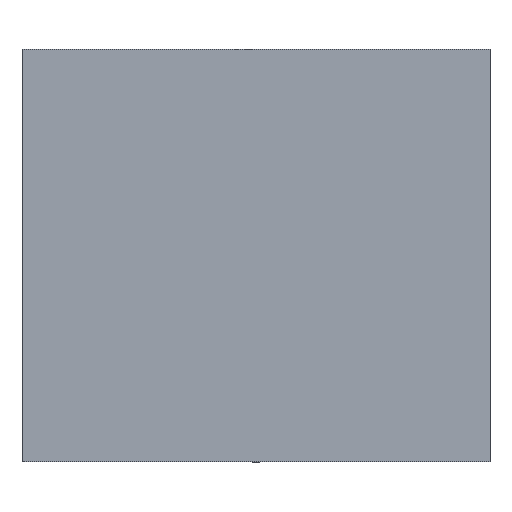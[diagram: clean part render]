
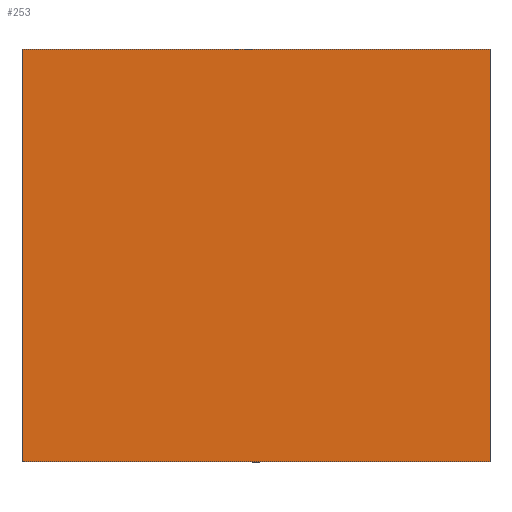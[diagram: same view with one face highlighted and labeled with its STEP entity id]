
A CAD part, left-side view. The second image highlights one B-rep face of the part: STEP entity #253.
In plain terms, the highlighted planar face has unit normal (-1, 0, 0).
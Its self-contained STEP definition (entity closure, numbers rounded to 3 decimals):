
#253 = ADVANCED_FACE( '', ( #568 ), #569, .T. );
#568 = FACE_OUTER_BOUND( '', #964, .T. );
#569 = PLANE( '', #965 );
#964 = EDGE_LOOP( '', ( #1494, #1495, #1496, #1497 ) );
#965 = AXIS2_PLACEMENT_3D( '', #1498, #1499, #1500 );
#1494 = ORIENTED_EDGE( '', *, *, #1995, .F. );
#1495 = ORIENTED_EDGE( '', *, *, #1996, .F. );
#1496 = ORIENTED_EDGE( '', *, *, #1997, .T. );
#1497 = ORIENTED_EDGE( '', *, *, #1992, .T. );
#1498 = CARTESIAN_POINT( '', ( -150., 150., -264.5 ) );
#1499 = DIRECTION( '', ( -1., 0., 0. ) );
#1500 = DIRECTION( '', ( 0., 1., 0. ) );
#1992 = EDGE_CURVE( '', #2331, #2329, #2332, .T. );
#1995 = EDGE_CURVE( '', #2335, #2329, #2336, .T. );
#1996 = EDGE_CURVE( '', #2337, #2335, #2338, .T. );
#1997 = EDGE_CURVE( '', #2337, #2331, #2339, .T. );
#2329 = VERTEX_POINT( '', #2736 );
#2331 = VERTEX_POINT( '', #2739 );
#2332 = LINE( '', #2740, #2741 );
#2335 = VERTEX_POINT( '', #2745 );
#2336 = LINE( '', #2746, #2747 );
#2337 = VERTEX_POINT( '', #2748 );
#2338 = LINE( '', #2749, #2750 );
#2339 = LINE( '', #2751, #2752 );
#2736 = CARTESIAN_POINT( '', ( -150., -150., 0. ) );
#2739 = CARTESIAN_POINT( '', ( -150., -150., -264.5 ) );
#2740 = CARTESIAN_POINT( '', ( -150., -150., -264.5 ) );
#2741 = VECTOR( '', #3104, 1000. );
#2745 = CARTESIAN_POINT( '', ( -150., 150., 0. ) );
#2746 = CARTESIAN_POINT( '', ( -150., 150., 0. ) );
#2747 = VECTOR( '', #3106, 1000. );
#2748 = CARTESIAN_POINT( '', ( -150., 150., -264.5 ) );
#2749 = CARTESIAN_POINT( '', ( -150., 150., -264.5 ) );
#2750 = VECTOR( '', #3107, 1000. );
#2751 = CARTESIAN_POINT( '', ( -150., -150., -264.5 ) );
#2752 = VECTOR( '', #3108, 1000. );
#3104 = DIRECTION( '', ( 0., 0., 1. ) );
#3106 = DIRECTION( '', ( 0., -1., 0. ) );
#3107 = DIRECTION( '', ( 0., 0., 1. ) );
#3108 = DIRECTION( '', ( 0., -1., 0. ) );
